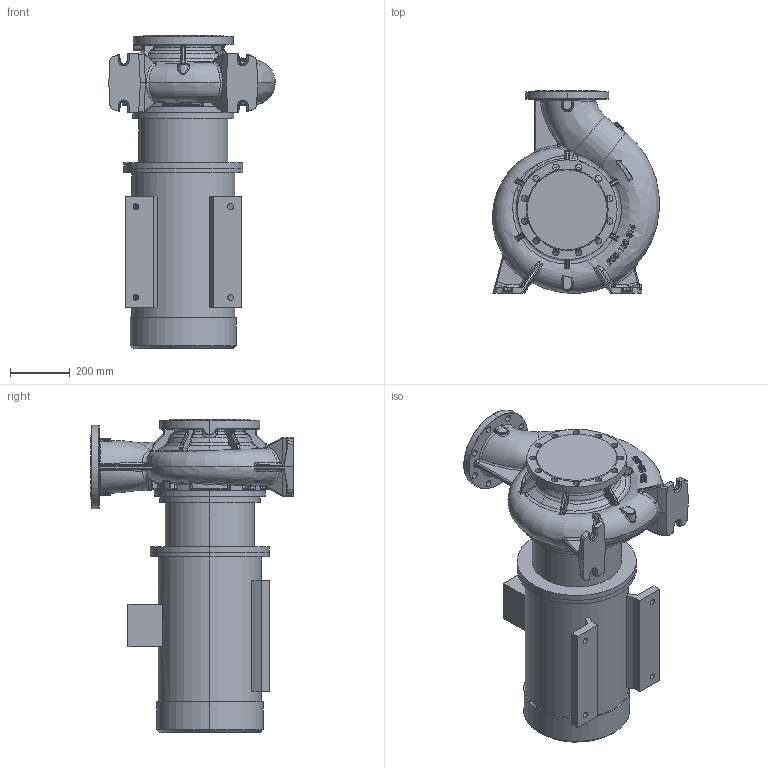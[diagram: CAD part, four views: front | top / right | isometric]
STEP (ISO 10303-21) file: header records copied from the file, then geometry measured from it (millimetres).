
FILE_DESCRIPTION (( 'STEP AP214' ), '1' );
FILE_NAME ('KRM 200-150-315-4-30.STEP', '2026-04-17T12:04:29', ( '' ), ( '' ), 'SwSTEP 2.0', 'SolidWorks 2016', '' );
FILE_SCHEMA (( 'AUTOMOTIVE_DESIGN' ));
Length unit declared in the file: millimetre
Products named in the file (1): KRM 200-150-315-4-30
Bounding box: 559.98 x 680 x 1052.3 mm (x, y, z)
Volume: 123986797.4 mm3; surface area: 3200905.4 mm2
Topology: 16 solids, 16 shells, 1427 faces, 3464 edges, 2032 vertices
Faces by surface type: bspline 605, cylinder 320, plane 258, torus 124, cone 76, sphere 44
Entity records: 99579 total; most frequent: CARTESIAN_POINT 55063, ORIENTED_EDGE 6822, DIRECTION 4885, EDGE_CURVE 3411, VERTEX_POINT 2032, AXIS2_PLACEMENT_3D 2019, EDGE_LOOP 1499, UNCERTAINTY_MEASURE_WITH_UNIT 1445
